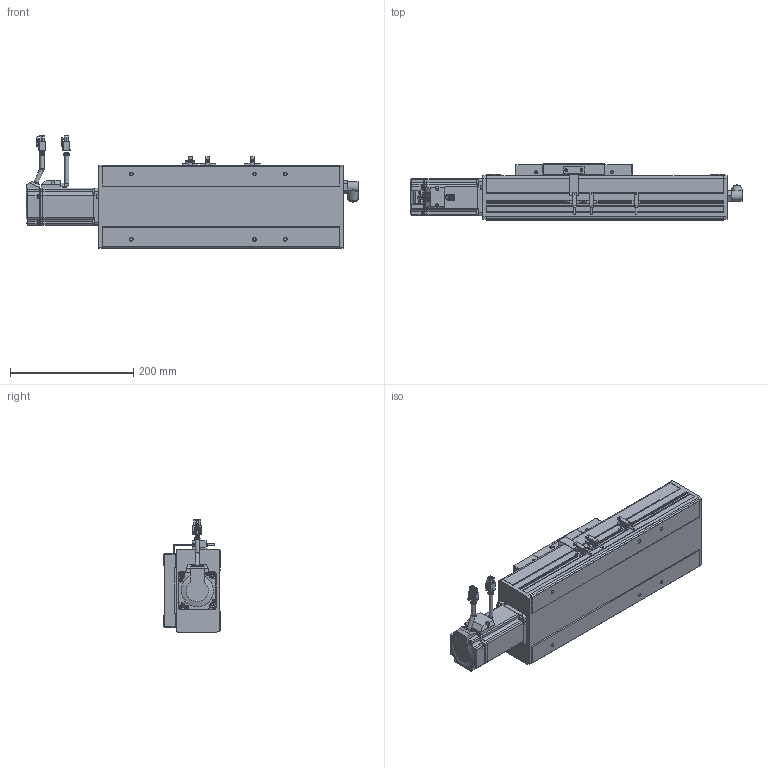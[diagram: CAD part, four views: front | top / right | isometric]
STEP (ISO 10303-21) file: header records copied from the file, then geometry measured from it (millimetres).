
FILE_DESCRIPTION(/* description */ ('STEP AP214'),/* implementation_level */ '2;1');
FILE_NAME(/* name */ 'PSC140-L05-S100-BC-P40-C1-N(0)',/* time_stamp */ '2022-06-13T03:12:38+02:00',/* author */ ('License CC BY-ND 4.0'),/* organization */ ('CADENAS'),/* preprocessor_version */ 'ST-DEVELOPER v18.102',/* originating_system */ 'PARTsolutions',/* authorisation */ ' ');
FILE_SCHEMA (('AUTOMOTIVE_DESIGN {1 0 10303 214 3 1 1}'));
Length unit declared in the file: millimetre
Products named in the file (10): PSC140-L05-S100-BC-P40-C1-N(0); P40-s2; P40-c2; P40-s1; P40-c1; P40-p1; PSC140-sensor; PSC140-BC-SLIDER; PSC140-S100-BC-P40-C1_BODY1; PSC140-L05-S100-BC-P40-C1-N(0)_dummy
Assembly tree (11 placements, depth 2):
  PSC140-L05-S100-BC-P40-C1-N(0)
    P40-s2
    P40-c2
    P40-s1
    P40-c1
    P40-p1
    PSC140-sensor  x3
    PSC140-BC-SLIDER
    PSC140-S100-BC-P40-C1_BODY1
    PSC140-L05-S100-BC-P40-C1-N(0)_dummy
Bounding box: 539 x 91 x 182.48 mm (x, y, z)
Volume: 4519569.5 mm3; surface area: 334887.4 mm2
Topology: 10 solids, 10 shells, 1232 faces, 3190 edges, 2109 vertices
Faces by surface type: plane 860, cylinder 311, cone 42, torus 19
Full cylindrical faces by diameter (mm): 1 x8, 2.6 x10, 2.8 x3, 3.3 x8, 4.5 x12, 4.6 x3, 4.917 x10, 5 x4, 5.5 x8, 6 x10, 6.08 x4, 7 x10, 9 x2, 10 x1, 11 x1, 13.74 x1, 14 x1, 16.4 x2, 16.5 x1, 19.98 x1, 31.98 x1, 35.5 x1, 50 x2
Entity records: 34118 total; most frequent: CARTESIAN_POINT 5965, DIRECTION 5731, ORIENTED_EDGE 5546, EDGE_CURVE 2773, LINE 2109, VECTOR 2109, VERTEX_POINT 1930, AXIS2_PLACEMENT_3D 1811
